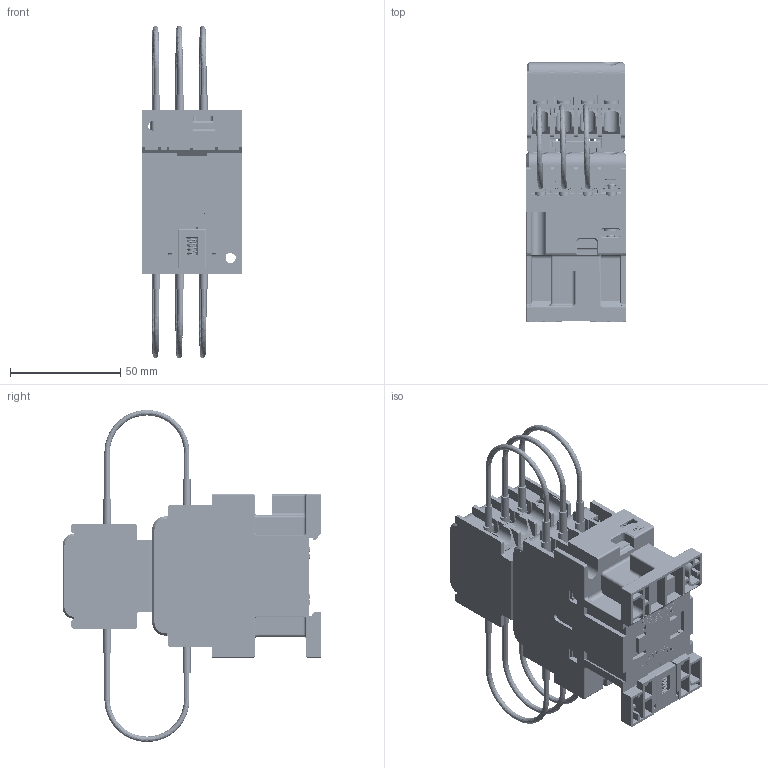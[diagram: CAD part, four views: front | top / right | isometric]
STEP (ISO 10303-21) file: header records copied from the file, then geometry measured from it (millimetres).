
FILE_DESCRIPTION((''),'2;1');
FILE_NAME('CDC19S-25','2020-11-04T',('yunfei.yang'),(''),'PRO/ENGINEER BY PARAMETRIC TECHNOLOGY CORPORATION, 2015440','PRO/ENGINEER BY PARAMETRIC TECHNOLOGY CORPORATION, 2015440','');
FILE_SCHEMA(('CONFIG_CONTROL_DESIGN'));
Products named in the file (1): CDC19S-25
Bounding box: 45 x 117.2 x 150.32 mm (x, y, z)
Volume: 212171.5 mm3; surface area: 106180.1 mm2
Topology: 1 solids, 10 shells, 9663 faces, 26720 edges, 17149 vertices
Faces by surface type: plane 7452, cylinder 1402, extrusion 230, torus 191, bspline 188, cone 167, sphere 33
Entity records: 330983 total; most frequent: CARTESIAN_POINT 85784, ORIENTED_EDGE 53440, DIRECTION 46973, EDGE_CURVE 26720, VECTOR 21411, LINE 21181, VERTEX_POINT 17149, AXIS2_PLACEMENT_3D 12781
